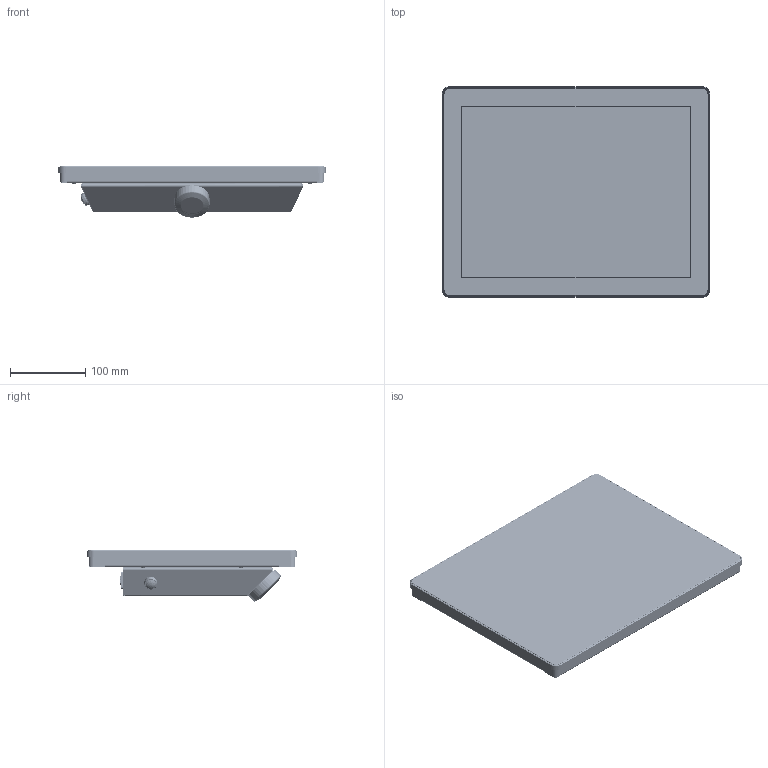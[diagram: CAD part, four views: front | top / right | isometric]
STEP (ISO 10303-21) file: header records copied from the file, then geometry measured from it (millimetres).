
FILE_DESCRIPTION (( 'STEP AP203' ), '1' );
FILE_NAME ('V150S-00 Assembly.STEP', '2026-07-31T08:47:04', ( '' ), ( '' ), 'SwSTEP 2.0', 'SolidWorks 2025', '' );
FILE_SCHEMA (( 'CONFIG_CONTROL_DESIGN' ));
Length unit declared in the file: millimetre
Products named in the file (42): MSBR-1^SLIM_D-SUB_15F_1_50MM_DIP_90__PCB-SBC-250_sbc-250(2)_sbc-250 board only; Vertical stacked USB panelmount_Défaut; V150S-11 Montagestrip; Afdekkap 12mm; AK_USB_13P_4HD_RA_FOXC^PCB-SBC-250_sbc-250(2)_sbc-250 board only; MSBR-3^SLIM_D-SUB_15F_1_50MM_DIP_90__PCB-SBC-250_sbc-250(2)_sbc-250 board only; V-UNIS-10 Backcover; AK_LAN_JACK_24P_4H_S_KI_LFA^PCB-SBC-250_sbc-250(2)_sbc-250 board only; Celrubber 2x6^V150S-00 Assembly; RS232_panelmount_RS 446-462; sbc-250(2)^sbc-250 board only; CMI G150XNE-L03; V-UNI-SBC250 Connector panel; PCB-SBC-250-5^PCB-SBC-250_sbc-250(2)_sbc-250 board only; ITW 59111; FH4-M3-12 Inpersdraadeind; Part3^V150S-00 Assembly; V-UNIS-01 Backcover assembly_SBC250; sbc-250 board only; MSBR-2^SLIM_D-SUB_15F_1_50MM_DIP_90__PCB-SBC-250_sbc-250(2)_sbc-250 board only; V150S-00 Assembly; V150S-10 Behuizing; Meanwell IRM-90-12ST; TEST BS-M4-8 RVS blinde inpersafstandsteun; FH-M4-12-ZI Inpersdraadeind; SO-3,5M3-6-ZI Inpersafstandsteun; SBC250-12 Heatspreader kort Asrock SBC250; S150S-10 Bezel; PCB-SBC-250^sbc-250(2)_sbc-250 board only; WLAN antenne JCA003; ITW 59111_button; ITW 59111_locknut; AK_D_SUB_15P_4HD_RA_LFA^PCB-SBC-250_sbc-250(2)_sbc-250 board only; SLIM_D-SUB_15F_1_50MM_DIP_90_^PCB-SBC-250_sbc-250(2)_sbc-250 board only; SBC250 met korte heatspreader; AK_HDMI_19P_30_7HD_RA_LFA^PCB-SBC-250_sbc-250(2)_sbc-250 board only; V-serie - M3 x 4 - Z --- 3N_DIN 967 - M3 x 4 - Z --- 3N; 220V IEC snap-in input socket 539-2017; ITW 59111_ring; EG-15-319-0403V1
Assembly tree (60 placements, depth 8):
  V150S-00 Assembly
    V150S-10 Behuizing
    V150S-11 Montagestrip  x2
      V150S-11 Montagestrip
      SO-3,5M3-6-ZI Inpersafstandsteun
    EG-15-319-0403V1
    S150S-10 Bezel
    CMI G150XNE-L03
    V-UNIS-01 Backcover assembly_SBC250
      V-UNIS-10 Backcover
        V-UNIS-10 Backcover
        TEST BS-M4-8 RVS blinde inpersafstandsteun  x4
        FH-M4-12-ZI Inpersdraadeind  x8
        FH4-M3-12 Inpersdraadeind  x4
      V-UNI-SBC250 Connector panel
      SBC250 met korte heatspreader
        sbc-250 board only
          sbc-250(2)^sbc-250 board only
            PCB-SBC-250^sbc-250(2)_sbc-250 board only
              SLIM_D-SUB_15F_1_50MM_DIP_90_^PCB-SBC-250_sbc-250(2)_sbc-250 board only
                MSBR-3^SLIM_D-SUB_15F_1_50MM_DIP_90__PCB-SBC-250_sbc-250(2)_sbc-250 board only
                MSBR-2^SLIM_D-SUB_15F_1_50MM_DIP_90__PCB-SBC-250_sbc-250(2)_sbc-250 board only
                MSBR-1^SLIM_D-SUB_15F_1_50MM_DIP_90__PCB-SBC-250_sbc-250(2)_sbc-250 board only
              PCB-SBC-250-5^PCB-SBC-250_sbc-250(2)_sbc-250 board only
              AK_D_SUB_15P_4HD_RA_LFA^PCB-SBC-250_sbc-250(2)_sbc-250 board only
              AK_USB_13P_4HD_RA_FOXC^PCB-SBC-250_sbc-250(2)_sbc-250 board only
              AK_HDMI_19P_30_7HD_RA_LFA^PCB-SBC-250_sbc-250(2)_sbc-250 board only
              AK_LAN_JACK_24P_4H_S_KI_LFA^PCB-SBC-250_sbc-250(2)_sbc-250 board only
        SBC250-12 Heatspreader kort Asrock SBC250
      Meanwell IRM-90-12ST
      ITW 59111
        ITW 59111_button
        ITW 59111_ring
        ITW 59111_locknut
      220V IEC snap-in input socket 539-2017
      RS232_panelmount_RS 446-462
      Vertical stacked USB panelmount_Défaut
      WLAN antenne JCA003
    WLAN antenne JCA003
    Celrubber 2x6^V150S-00 Assembly
    Afdekkap 12mm
    V-serie - M3 x 4 - Z --- 3N_DIN 967 - M3 x 4 - Z --- 3N  x4
    Part3^V150S-00 Assembly
Bounding box: 356 x 280 x 68.07 mm (x, y, z)
Volume: 1819086.8 mm3; surface area: 963279.6 mm2
Topology: 60 solids, 75 shells, 7987 faces, 21715 edges, 13803 vertices
Faces by surface type: plane 5269, cylinder 1908, bspline 510, cone 170, torus 100, sphere 30
Full cylindrical faces by diameter (mm): 0.92 x9, 1.397 x2, 1.8 x3, 2.5 x26, 3 x10, 3.05 x4, 3.2 x2, 3.5 x44, 4 x16, 4.1 x8, 4.6 x4, 5.2 x4, 5.4 x4, 5.49 x4, 5.5 x5, 5.9 x8, 6 x1, 7.1 x4, 7.22 x4, 9 x1, 10 x2, 11 x1, 11.43 x1, 12 x2, 13.5 x1, 13.9 x1, 14.605 x1, 17.526 x1, 46.6 x2
Entity records: 294013 total; most frequent: CARTESIAN_POINT 97941, ORIENTED_EDGE 41614, DIRECTION 36435, EDGE_CURVE 20809, LINE 15347, VECTOR 15347, VERTEX_POINT 13324, AXIS2_PLACEMENT_3D 10544
